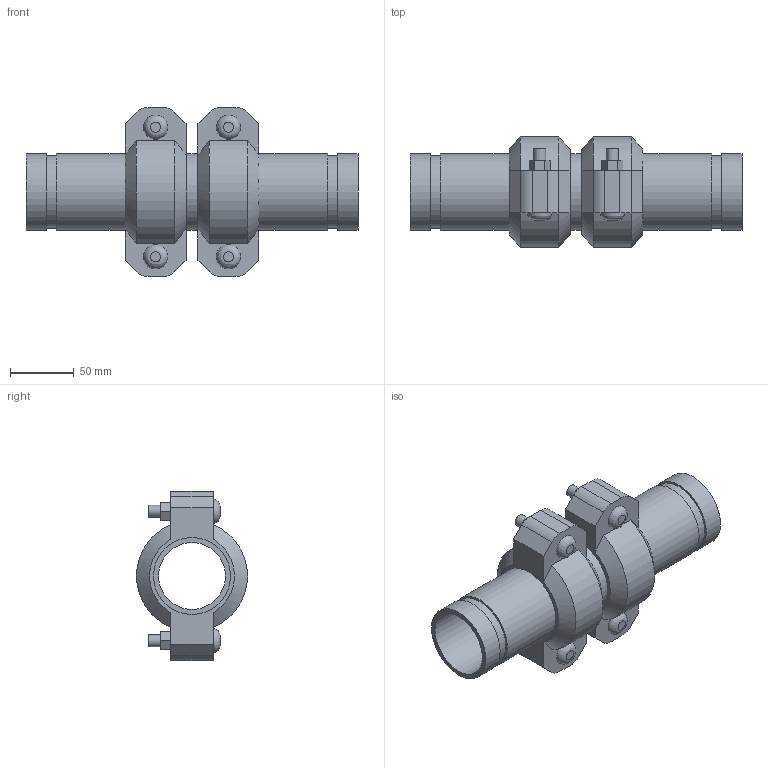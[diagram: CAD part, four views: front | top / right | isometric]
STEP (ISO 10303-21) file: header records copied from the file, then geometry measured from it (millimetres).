
FILE_DESCRIPTION(/* description */ ('VIC EXPANSION JOINT 2 COUPLINGS COMPRESSED STYLE 155 (OGS)','CAx-IF Rec.Pracs.---Representation and Presentation of Product Manufacturing Information (PMI)---4.0---2014-10-13'),/* implementation_level */ '2;1');
FILE_NAME(/* name */ 'C:\Users\kkamble\AppData\Roaming\Autodesk\ApplicationPlugins\Victaulic.Temp\A11\Victaulic_IPS_Expansion Joint_Compressed_2 Couplings_Style 155 (OGS)_2 (50).stp',/* time_stamp */ '2021-06-27T00:23:13+02:00',/* author */ ('kkamble'),/* organization */ ('Victaulic'),/* preprocessor_version */ 'ST-DEVELOPER v17.2',/* originating_system */ 'Autodesk Inventor 2019',/* authorisation */ '');
FILE_SCHEMA (('AP242_MANAGED_MODEL_BASED_3D_ENGINEERING_MIM_LF { 1 0 10303 442 1 1 4 }'));
Length unit declared in the file: inch
Products named in the file (4): 155-02.0; Nipple-02.0; Nipple-02.0_1; 075-02.0
Assembly tree (5 placements, depth 2):
  155-02.0
    Nipple-02.0  x2
    Nipple-02.0_1
    075-02.0  x2
Bounding box: 260.35 x 87.12 x 132.59 mm (x, y, z)
Volume: 566489.1 mm3; surface area: 176928.2 mm2
Topology: 5 solids, 9 shells, 142 faces, 344 edges, 244 vertices
Faces by surface type: plane 86, cylinder 44, cone 8, bspline 4
Full cylindrical faces by diameter (mm): 9.525 x8, 11.43 x4, 52.502 x3, 57.15 x6, 60.325 x11
Entity records: 2659 total; most frequent: CARTESIAN_POINT 475, DIRECTION 435, ORIENTED_EDGE 374, EDGE_CURVE 187, AXIS2_PLACEMENT_3D 172, VERTEX_POINT 134, EDGE_LOOP 101, LINE 91
